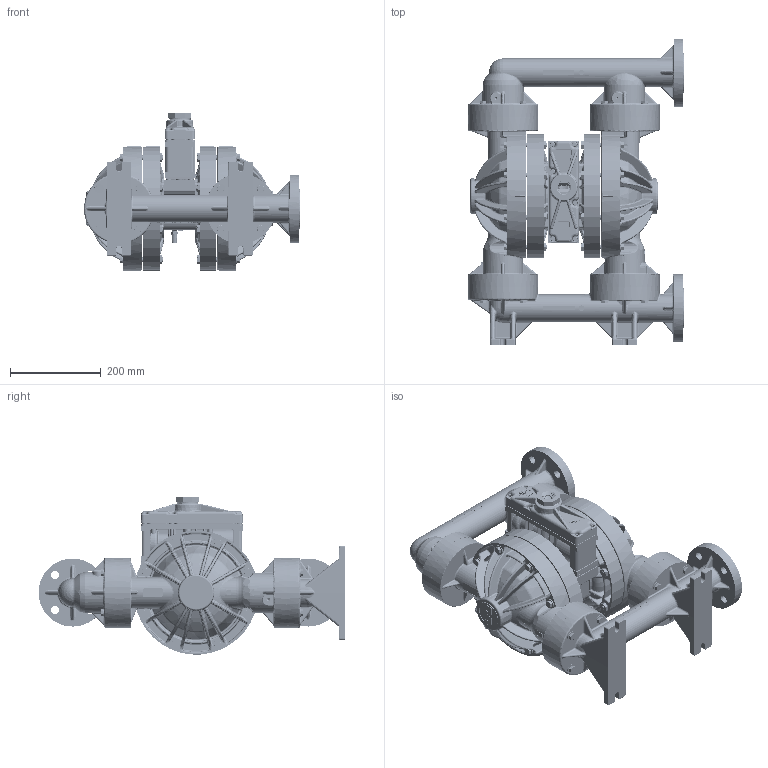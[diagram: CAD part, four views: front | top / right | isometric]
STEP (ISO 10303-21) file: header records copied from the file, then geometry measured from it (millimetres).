
FILE_DESCRIPTION((''),'2;1');
FILE_NAME('PS400_ADV_PLASTIC_POL_SW0003','2014-10-13T',('nathan.hale'),(''),'PRO/ENGINEER BY PARAMETRIC TECHNOLOGY CORPORATION, 2011180','PRO/ENGINEER BY PARAMETRIC TECHNOLOGY CORPORATION, 2011180','');
FILE_SCHEMA(('CONFIG_CONTROL_DESIGN'));
Products named in the file (1): PS400_ADV_PLASTIC_POL_SW0003
Bounding box: 476.35 x 676.55 x 348.69 mm (x, y, z)
Volume: 14573918.1 mm3; surface area: 2642261.4 mm2
Topology: 3 solids, 4 shells, 21033 faces, 52737 edges, 32565 vertices
Faces by surface type: plane 10006, bspline 3975, cylinder 2537, cone 1785, torus 1422, sphere 1002, extrusion 306
Entity records: 987933 total; most frequent: CARTESIAN_POINT 514844, ORIENTED_EDGE 105372, DIRECTION 88349, EDGE_CURVE 52686, VERTEX_POINT 32565, AXIS2_PLACEMENT_3D 29727, VECTOR 28895, LINE 28589
